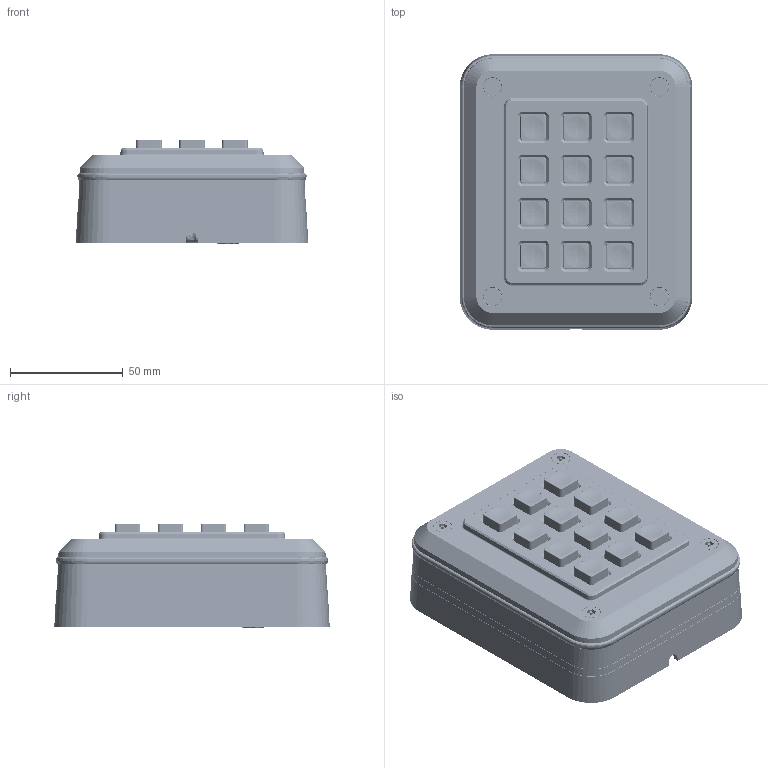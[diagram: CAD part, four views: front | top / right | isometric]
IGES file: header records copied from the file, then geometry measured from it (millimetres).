
Start section: SolidWorks IGES file using NURBS representation for surfaces
Global section: file name: C:\Users\anthonyc\Desktop\K-RANGE_KEYPAD_12-WAY_+_REAR_CASE~1.IGS; native system: SolidWorks 2018; preprocessor: SolidWorks 2018; author: anthonyc; date: 190115.155144; units: millimetre
Bounding box: 103.04 x 122.04 x 46.15 mm (x, y, z)
Surface area: 176210.5 mm2 (no closed solid volume)
Topology: 0 solids, 0 shells, 10711 faces, 99656 edges, 99536 vertices
Faces by surface type: bspline 10711
